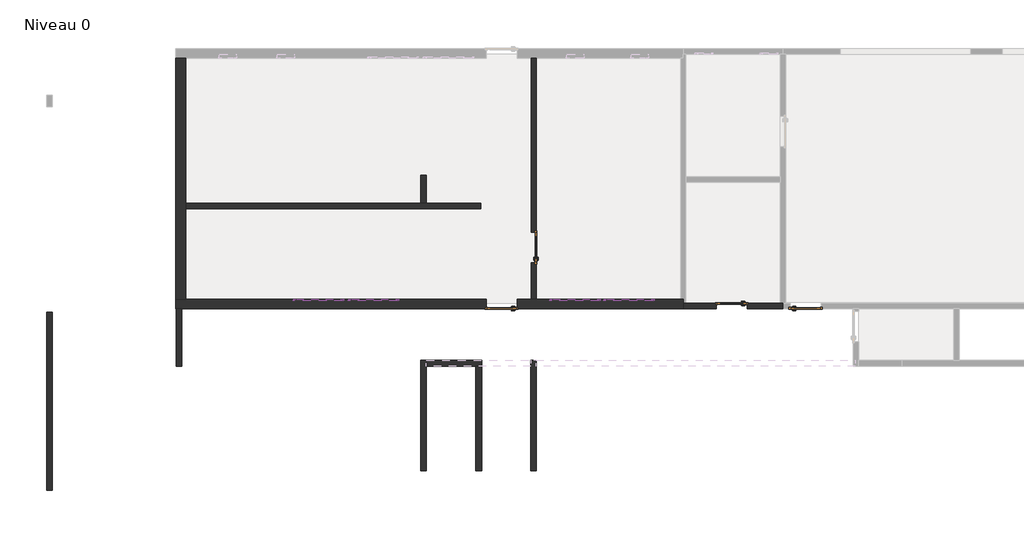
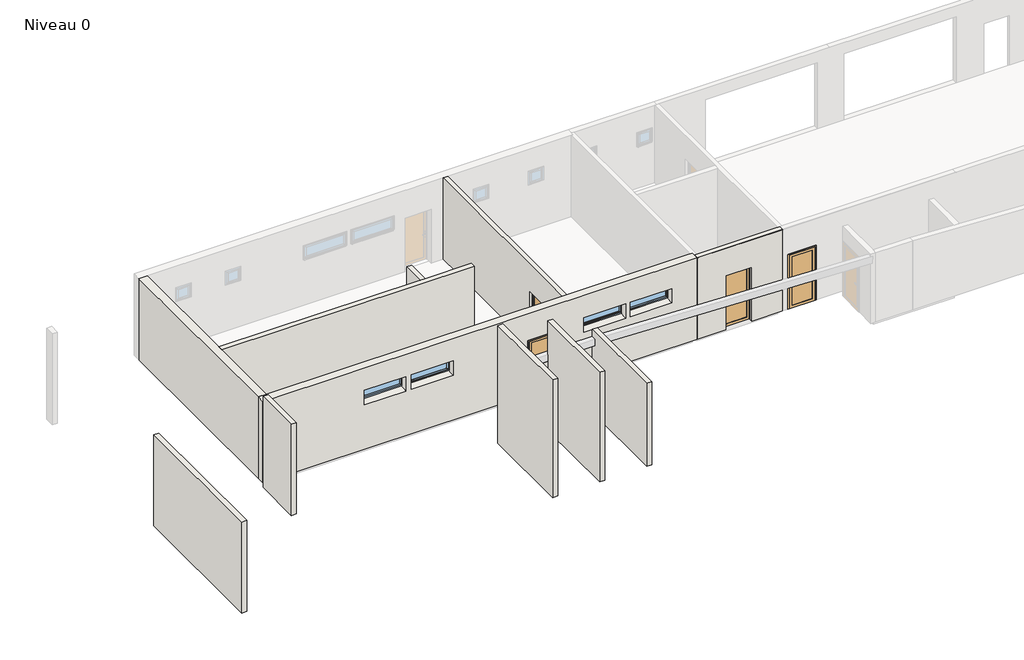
# One storey, part 1 of 3: 12 walls, 4 doors, 4 windows.
"""IFC4 building model written with IfcOpenShell, lengths in millimetres."""

from ifc_helpers import new_model, si_unit, frame, origin, origin_with_axes, place, context, project, spatial, polyline, circle_curve, outline, extrude, faceted_brep, transform, mapped, element, save
from ifc_brep_helpers import plane_surface, revolved_surface, advanced_brep
from components import pvc_panneau_plein_0_93_x_2_04_92b54130, pvc_panneau_plein_0_93_x_2_04_d98bbb1e, pvc_panneau_plein_0_93_x_2_04_515509ed, rect_1_fixe_150x50_26ae5af5

model = new_model("IFC4")

# Units and contexts
model_context = context("Model", 3, world=origin())
ifc_project = project(units=[si_unit("LENGTHUNIT", "METRE", prefix="MILLI")], contexts=[model_context])

# Site, building, storey
site = spatial("IfcSite", under=ifc_project)
building = spatial("IfcBuilding", under=site)
storey = spatial("IfcBuildingStorey", under=building, Name="Niveau 0", Elevation=0.0)

# Doors
placement = place(None, origin())
pvc_panneau_plein_0_93_x_2_04_shape = pvc_panneau_plein_0_93_x_2_04_92b54130(model_context)
element("IfcDoor", 1, ObjectType="PVC Panneau Plein : 0.93 x 2.04", at=placement, inside=storey, context=model_context, shape_type="MappedRepresentation", body=[
    mapped(pvc_panneau_plein_0_93_x_2_04_shape, transform((-1337.7523392, -3130.8814156, 0.0), x_axis=(0.0, 1.0, 0.0), y_axis=(-1.0, 0.0, 0.0), z_axis=(0.0, 0.0, 1.0))),
])
pvc_panneau_plein_0_93_x_2_04_2_shape = pvc_panneau_plein_0_93_x_2_04_d98bbb1e(model_context)
element("IfcDoor", 2, ObjectType="PVC Panneau Plein : 0.93 x 2.04", at=placement, inside=storey, context=model_context, shape_type="MappedRepresentation", body=[
    mapped(pvc_panneau_plein_0_93_x_2_04_2_shape, transform((7060.5386339, -4937.0878454, 0.0), x_axis=(1.0, 0.0, 0.0), y_axis=(0.0, 1.0, 0.0), z_axis=(0.0, 0.0, 1.0))),
])
element("IfcDoor", 3, ObjectType="PVC Panneau Plein : 0.93 x 2.04", at=placement, inside=storey, context=model_context, shape_type="MappedRepresentation", body=[
    mapped(pvc_panneau_plein_0_93_x_2_04_2_shape, transform((4780.5386339, -4944.6749858, 0.0), x_axis=(-1.0, 0.0, 0.0), y_axis=(0.0, -1.0, 0.0), z_axis=(0.0, 0.0, 1.0))),
])
pvc_panneau_plein_0_93_x_2_04_3_shape = pvc_panneau_plein_0_93_x_2_04_515509ed(model_context)
element("IfcDoor", 4, ObjectType="PVC Panneau Plein : 0.93 x 2.04", at=placement, inside=storey, context=model_context, shape_type="MappedRepresentation", body=[
    mapped(pvc_panneau_plein_0_93_x_2_04_3_shape, transform((-2323.000001, -4877.0878454, 0.0), x_axis=(-1.0, 0.0, 0.0), y_axis=(0.0, -1.0, 0.0), z_axis=(0.0, 0.0, 1.0))),
])

# Walls
element("IfcWall", 5, ObjectType="Refend. Voile BA 16", at=placement, inside=storey, context=model_context, shape_type="Brep", body=[
    faceted_brep([(-1253.958769, -4730.8814156, 3100.0), (-1253.958769, -4730.8814156, 0.0), (-1253.958769, -3645.8814156, 0.0), (-1253.958769, -3645.8814156, 2090.0), (-1253.958769, -2615.8814156, 2090.0), (-1253.958769, -2615.8814156, 0.0), (-1253.958769, 2709.1185844, 0.0), (-1253.958769, 2709.1185844, 3100.0), (-1413.958769, -4730.8814156, 0.0), (-1413.958769, -4730.8814156, 3100.0), (-1413.958769, 2709.1185844, 3100.0), (-1413.958769, 2709.1185844, 0.0), (-1413.958769, -2655.8814156, 0.0), (-1413.958769, -2655.8814156, 2050.0), (-1413.958769, -3605.8814156, 2050.0), (-1413.958769, -3605.8814156, 0.0), (-1303.958769, -3605.8814156, 0.0), (-1303.958769, -3645.8814156, 0.0), (-1303.958769, -2615.8814156, 0.0), (-1303.958769, -2655.8814156, 0.0), (-1303.958769, -2655.8814156, 2050.0), (-1303.958769, -3605.8814156, 2050.0), (-1303.958769, -3645.8814156, 2090.0), (-1303.958769, -2615.8814156, 2090.0)], [[[0, 1, 2, 3, 4, 5, 6, 7]], [[8, 9, 10, 11, 12, 13, 14, 15]], [[1, 8, 15, 16, 17, 2]], [[11, 6, 5, 18, 19, 12]], [[1, 0, 9, 8]], [[7, 6, 11, 10]], [[20, 21, 14, 13]], [[21, 16, 15, 14]], [[19, 20, 13, 12]], [[17, 22, 3, 2]], [[21, 20, 19, 18, 23, 22, 17, 16]], [[3, 22, 23, 4]], [[23, 18, 5, 4]], [[0, 7, 10, 9]]]),
])
element("IfcWall", 6, ObjectType="Ext. Voile BA 18", at=placement, inside=storey, context=model_context, shape_type="Brep", body=[
    faceted_brep([(3280.5386339, -4850.8814156, 0.0), (3280.5386339, -4850.8814156, 3100.0), (3360.5386339, -4850.8814156, 3100.0), (6280.5386339, -4850.8814156, 3100.0), (6360.5386339, -4850.8814156, 3100.0), (6360.5386339, -4850.8814156, 0.0), (6280.5386339, -4850.8814156, 0.0), (5295.5386339, -4850.8814156, 0.0), (5295.5386339, -4850.8814156, 2090.0), (4265.5386339, -4850.8814156, 2090.0), (4265.5386339, -4850.8814156, 0.0), (3360.5386339, -4850.8814156, 0.0), (3280.5386339, -5030.8814156, 3100.0), (3280.5386339, -5030.8814156, 0.0), (4305.5386339, -5030.8814156, 0.0), (4305.5386339, -5030.8814156, 2050.0), (5255.5386339, -5030.8814156, 2050.0), (5255.5386339, -5030.8814156, 0.0), (6360.5386339, -5030.8814156, 0.0), (6360.5386339, -5030.8814156, 3100.0), (4265.5386339, -4900.8814156, 0.0), (4305.5386339, -4900.8814156, 0.0), (5255.5386339, -4900.8814156, 0.0), (5295.5386339, -4900.8814156, 0.0), (3280.5386339, -5025.8814156, 3100.0), (6360.5386339, -5025.8814156, 3100.0), (4305.5386339, -4900.8814156, 2050.0), (5255.5386339, -4900.8814156, 2050.0), (5295.5386339, -4900.8814156, 2090.0), (4265.5386339, -4900.8814156, 2090.0)], [[[0, 1, 2, 3, 4, 5, 6, 7, 8, 9, 10, 11]], [[12, 13, 14, 15, 16, 17, 18, 19]], [[13, 0, 11, 10, 20, 21, 14]], [[5, 18, 17, 22, 23, 7, 6]], [[1, 0, 13, 12, 24]], [[5, 4, 25, 19, 18]], [[26, 27, 16, 15]], [[27, 22, 17, 16]], [[21, 26, 15, 14]], [[23, 28, 8, 7]], [[27, 26, 21, 20, 29, 28, 23, 22]], [[8, 28, 29, 9]], [[29, 20, 10, 9]], [[12, 19, 25, 24]], [[4, 3, 2, 1, 24, 25]]]),
])
element("IfcWall", 7, ObjectType="Ext. Voile BA 18", at=placement, inside=storey, context=model_context, shape_type="Brep", body=[
    faceted_brep([(-12083.9657883, -1940.8814156, 0.0), (-2973.000001, -1940.8814156, 0.0), (-2973.000001, -1940.8814156, 3100.0), (-12083.9657883, -1940.8814156, 3100.0), (-12083.9657883, -1760.8814156, 0.0), (-12083.9657883, -1760.8814156, 3100.0), (-4823.958769, -1760.8814156, 3100.0), (-4643.958769, -1760.8814156, 3100.0), (-2973.000001, -1760.8814156, 3100.0), (-2973.000001, -1760.8814156, 0.0), (-4643.958769, -1760.8814156, 0.0), (-4823.958769, -1760.8814156, 0.0)], [[[0, 1, 2, 3]], [[4, 5, 6, 7, 8, 9, 10, 11]], [[1, 0, 4, 11, 10, 9]], [[2, 1, 9, 8]], [[0, 3, 5, 4]], [[3, 2, 8, 7, 6, 5]]]),
])
element("IfcWall", 8, ObjectType="Ext. Voile BA 18", at=placement, inside=storey, context=model_context, shape_type="SweptSolid", body=[
    extrude(outline(polyline([(-4643.958769, -910.8814156), (-4643.958769, -1760.8814156), (-4823.958769, -1760.8814156), (-4823.958769, -910.8814156), (-4643.958769, -910.8814156)])), origin_with_axes(), (0.0, 0.0, 1.0), 3100.0),
])
element("IfcWall", 9, ObjectType="Ext. Voile BA 18", at=placement, inside=storey, context=model_context, shape_type="Brep", body=[
    faceted_brep([(-1428.02184, -6620.8814156, -170.0), (-1428.02184, -10030.8814156, -170.0), (-1428.02184, -10030.8814156, 2990.0), (-1428.02184, -6620.8814156, 2990.0), (-1428.02184, -6620.8814156, 2720.0), (-1428.02184, -6620.8814156, 2470.0), (-1248.02184, -6620.8814156, -170.0), (-1248.02184, -6620.8814156, 2470.0), (-1248.02184, -6620.8814156, 2720.0), (-1248.02184, -6620.8814156, 2990.0), (-1248.02184, -10030.8814156, 2990.0), (-1248.02184, -10030.8814156, -170.0)], [[[0, 1, 2, 3, 4, 5]], [[6, 7, 8, 9, 10, 11]], [[1, 0, 6, 11]], [[2, 1, 11, 10]], [[3, 2, 10, 9]], [[0, 5, 4, 3, 9, 8, 7, 6]]]),
])
element("IfcWall", 10, ObjectType="Ext. Voile BA 18", at=placement, inside=storey, context=model_context, shape_type="Brep", body=[
    faceted_brep([(-4823.958769, -6620.8814156, -170.0), (-4823.958769, -10030.7740326, -170.0), (-4823.958769, -10030.7740326, 4320.0), (-4823.958769, -6620.8814156, 4320.0), (-4643.958769, -6620.8814156, -170.0), (-4643.958769, -6620.8814156, 2469.6602788), (-4643.958769, -6620.8814156, 2470.0), (-4643.958769, -6620.8814156, 2720.0), (-4643.958769, -6620.8814156, 4320.0), (-4643.958769, -10030.7740326, 4320.0), (-4643.958769, -10030.7740326, -170.0), (-4643.958769, -6800.8814156, -170.0)], [[[0, 1, 2, 3]], [[4, 5, 6, 7, 8, 9, 10, 11]], [[1, 0, 4, 11, 10]], [[2, 1, 10, 9]], [[3, 2, 9, 8]], [[0, 3, 8, 7, 6, 5, 4]]]),
])
element("IfcWall", 11, ObjectType="Ext. Voile BA 18", at=placement, inside=storey, context=model_context, shape_type="Brep", body=[
    faceted_brep([(-4643.958769, -6800.8814156, -170.0), (-3123.958769, -6800.8814156, -170.0), (-2943.958769, -6800.8814156, -170.0), (-2943.958769, -6800.8814156, 2469.6602788), (-4643.958769, -6800.8814156, 2469.6602788), (-4643.958769, -6620.8814156, -170.0), (-4643.958769, -6620.8814156, 2469.6602788), (-2943.958769, -6620.8814156, 2469.6602788), (-2943.958769, -6620.8814156, -170.0)], [[[0, 1, 2, 3, 4]], [[5, 6, 7, 8]], [[2, 1, 0, 5, 8]], [[4, 3, 7, 6]], [[0, 4, 6, 5]], [[3, 2, 8, 7]]]),
])
element("IfcWall", 12, ObjectType="Ext. Voile BA 18", at=placement, inside=storey, context=model_context, shape_type="Brep", body=[
    faceted_brep([(-3123.958769, -6800.8814156, -170.0), (-3123.958769, -10030.7740326, -170.0), (-3123.958769, -10030.7740326, 4010.0), (-3123.958769, -6800.8814156, 4010.0), (-2943.958769, -6800.8814156, -170.0), (-2943.958769, -6800.8814156, 2469.6602788), (-2943.958769, -6800.8814156, 4010.0), (-2943.958769, -10030.7740326, 4010.0), (-2943.958769, -10030.7740326, -170.0)], [[[0, 1, 2, 3]], [[4, 5, 6, 7, 8]], [[1, 0, 4, 8]], [[2, 1, 8, 7]], [[3, 2, 7, 6]], [[0, 3, 6, 5, 4]]]),
])
element("IfcWall", 13, ObjectType="Ext. Voile BA 18", at=placement, inside=storey, context=model_context, shape_type="SweptSolid", body=[
    extrude(outline(polyline([(-12373.958769, -6800.8814156), (-12373.958769, -5030.8814156), (-12193.958769, -5030.8814156), (-12193.958769, -6800.8814156), (-12373.958769, -6800.8814156)])), frame((0.0, 0.0, -170.0), z_axis=(0.0, 0.0, 1.0), x_axis=(1.0, 0.0, 0.0)), (0.0, 0.0, 1.0), 3470.0),
])
element("IfcWall", 14, ObjectType="Ext. Voile BA 18", at=placement, inside=storey, context=model_context, shape_type="SweptSolid", body=[
    extrude(outline(polyline([(-16373.958769, -10630.8814156), (-16373.958769, -5130.8814156), (-16193.958769, -5130.8814156), (-16193.958769, -10630.8814156), (-16373.958769, -10630.8814156)])), frame((0.0, 0.0, -170.0), z_axis=(0.0, 0.0, 1.0), x_axis=(1.0, 0.0, 0.0)), (0.0, 0.0, 1.0), 3470.0),
])
element("IfcWall", 15, ObjectType="Ext. Voile BA 18 + Isolant 12", at=placement, inside=storey, context=model_context, shape_type="AdvancedBrep", body=[
    advanced_brep(
    [(3280.5386339, -4730.8814156, 3100.0), (3280.5386339, -4730.8814156, 0.0), (3200.5386339, -4730.8814156, 0.0), (-1253.958769, -4730.8814156, 0.0), (-1413.958769, -4730.8814156, 0.0), (-1848.000001, -4730.8814156, 0.0), (-1848.000001, -4730.8814156, 2050.0), (-2798.000001, -4730.8814156, 2050.0), (-2798.000001, -4730.8814156, 0.0), (-12083.9657883, -4730.8814156, 0.0), (-12383.9657883, -4730.8814156, 0.0), (-12383.9657883, -4730.8814156, 3100.0), (-12083.9657883, -4730.8814156, 3100.0), (-1413.958769, -4730.8814156, 3100.0), (-1253.958769, -4730.8814156, 3100.0), (3200.5386339, -4730.8814156, 3100.0), (833.2899324, -4730.8814156, 2280.0), (833.2899324, -4730.8814156, 1750.0), (853.2899324, -4730.8814156, 1750.0), (863.2899324, -4730.8814156, 1750.0), (863.2899324, -4730.8814156, 1720.5497907), (2363.2899324, -4730.8814156, 1720.5497907), (2363.2899324, -4730.8814156, 1750.0), (2373.2899324, -4730.8814156, 1750.0), (2393.2899324, -4730.8814156, 1750.0), (2393.2899324, -4730.8814156, 2280.0), (-7053.958769, -4730.8814156, 2280.0), (-7053.958769, -4730.8814156, 1750.0), (-7033.958769, -4730.8814156, 1750.0), (-7023.958769, -4730.8814156, 1750.0), (-7023.958769, -4730.8814156, 1720.5497907), (-5523.958769, -4730.8814156, 1720.5497907), (-5523.958769, -4730.8814156, 1750.0), (-5513.958769, -4730.8814156, 1750.0), (-5493.958769, -4730.8814156, 1750.0), (-5493.958769, -4730.8814156, 2280.0), (-8753.958769, -4730.8814156, 2280.0), (-8753.958769, -4730.8814156, 1750.0), (-8733.958769, -4730.8814156, 1750.0), (-8723.958769, -4730.8814156, 1750.0), (-8723.958769, -4730.8814156, 1720.5497907), (-7223.958769, -4730.8814156, 1720.5497907), (-7223.958769, -4730.8814156, 1750.0), (-7213.958769, -4730.8814156, 1750.0), (-7193.958769, -4730.8814156, 1750.0), (-7193.958769, -4730.8814156, 2280.0), (-833.958769, -4730.8814156, 2280.0), (-833.958769, -4730.8814156, 1750.0), (-803.958769, -4730.8814156, 1750.0), (-803.958769, -4730.8814156, 1720.5497907), (696.041231, -4730.8814156, 1720.5497907), (696.041231, -4730.8814156, 1750.0), (726.041231, -4730.8814156, 1750.0), (726.041231, -4730.8814156, 2280.0), (3280.5386339, -5030.8814156, 0.0), (3280.5386339, -5030.8814156, 3100.0), (-12383.9657883, -5030.8814156, 3100.0), (-12383.9657883, -5030.8814156, 0.0), (-2838.000001, -5030.8814156, 0.0), (-2838.000001, -5030.8814156, 2090.0), (-1808.000001, -5030.8814156, 2090.0), (-1808.000001, -5030.8814156, 0.0), (2363.2899324, -5030.8814156, 2250.0), (2363.2899324, -5030.8814156, 1700.0), (863.2899324, -5030.8814156, 1700.0), (863.2899324, -5030.8814156, 2250.0), (-5523.958769, -5030.8814156, 2250.0), (-5523.958769, -5030.8814156, 1700.0), (-7023.958769, -5030.8814156, 1700.0), (-7023.958769, -5030.8814156, 2250.0), (-7223.958769, -5030.8814156, 2250.0), (-7223.958769, -5030.8814156, 1700.0), (-8723.958769, -5030.8814156, 1700.0), (-8723.958769, -5030.8814156, 2250.0), (696.041231, -5030.8814156, 2250.0), (696.041231, -5030.8814156, 1700.0), (-803.958769, -5030.8814156, 1700.0), (-803.958769, -5030.8814156, 2250.0), (-2798.000001, -4980.8814156, 0.0), (-2838.000001, -4980.8814156, 0.0), (3280.5386339, -4850.8814156, 0.0), (-1808.000001, -4980.8814156, 0.0), (-1848.000001, -4980.8814156, 0.0), (3280.5386339, -4850.8814156, 3100.0), (3280.5386339, -5025.8814156, 3100.0), (-12383.9657883, -5025.8814156, 3100.0), (833.2899324, -4780.8814156, 2280.0), (2393.2899324, -4780.8814156, 2280.0), (2393.2899324, -4780.8814156, 1750.0), (2373.2899324, -4780.8814156, 1750.0), (2363.2899324, -4780.8814156, 1750.0), (2363.2899324, -4780.8814156, 2250.0), (863.2899324, -4780.8814156, 2250.0), (863.2899324, -4780.8814156, 1750.0), (853.2899324, -4780.8814156, 1750.0), (833.2899324, -4780.8814156, 1750.0), (2363.2899324, -4745.5027042, 1718.4115298), (863.2899324, -4745.5027042, 1718.4115298), (-7053.958769, -4780.8814156, 2280.0), (-5493.958769, -4780.8814156, 2280.0), (-5493.958769, -4780.8814156, 1750.0), (-5513.958769, -4780.8814156, 1750.0), (-5523.958769, -4780.8814156, 1750.0), (-5523.958769, -4780.8814156, 2250.0), (-7023.958769, -4780.8814156, 2250.0), (-7023.958769, -4780.8814156, 1750.0), (-7033.958769, -4780.8814156, 1750.0), (-7053.958769, -4780.8814156, 1750.0), (-5523.958769, -4745.5027042, 1718.4115298), (-7023.958769, -4745.5027042, 1718.4115298), (-8753.958769, -4780.8814156, 2280.0), (-7193.958769, -4780.8814156, 2280.0), (-7193.958769, -4780.8814156, 1750.0), (-7213.958769, -4780.8814156, 1750.0), (-7223.958769, -4780.8814156, 1750.0), (-7223.958769, -4780.8814156, 2250.0), (-8723.958769, -4780.8814156, 2250.0), (-8723.958769, -4780.8814156, 1750.0), (-8733.958769, -4780.8814156, 1750.0), (-8753.958769, -4780.8814156, 1750.0), (-7223.958769, -4745.5027042, 1718.4115298), (-8723.958769, -4745.5027042, 1718.4115298), (-1848.000001, -4980.8814156, 2050.0), (-2798.000001, -4980.8814156, 2050.0), (-1808.000001, -4980.8814156, 2090.0), (-2838.000001, -4980.8814156, 2090.0), (-833.958769, -4780.8814156, 2280.0), (726.041231, -4780.8814156, 2280.0), (726.041231, -4780.8814156, 1750.0), (706.041231, -4780.8814156, 1750.0), (696.041231, -4780.8814156, 1750.0), (696.041231, -4780.8814156, 2250.0), (-803.958769, -4780.8814156, 2250.0), (-803.958769, -4780.8814156, 1750.0), (-813.958769, -4780.8814156, 1750.0), (-833.958769, -4780.8814156, 1750.0), (696.041231, -4745.5027042, 1718.4115298), (-803.958769, -4745.5027042, 1718.4115298)],
    [
        (0, 1),
        (1, 2),
        (2, 3),
        (3, 4),
        (4, 5),
        (5, 6),
        (6, 7),
        (7, 8),
        (8, 9),
        (9, 10),
        (10, 11),
        (11, 12),
        (12, 13),
        (13, 14),
        (14, 15),
        (15, 0),
        (16, 17),
        (17, 18),
        (18, 19),
        (19, 20),
        (20, 21),
        (21, 22),
        (22, 23),
        (23, 24),
        (24, 25),
        (25, 16),
        (26, 27),
        (27, 28),
        (28, 29),
        (29, 30),
        (30, 31),
        (31, 32),
        (32, 33),
        (33, 34),
        (34, 35),
        (35, 26),
        (36, 37),
        (37, 38),
        (38, 39),
        (39, 40),
        (40, 41),
        (41, 42),
        (42, 43),
        (43, 44),
        (44, 45),
        (45, 36),
        (46, 47),
        (47, 48),
        (48, 49),
        (49, 50),
        (50, 51),
        (51, 52),
        (52, 53),
        (53, 46),
        (54, 55),
        (55, 56),
        (56, 57),
        (57, 58),
        (58, 59),
        (59, 60),
        (60, 61),
        (61, 54),
        (62, 63),
        (63, 64),
        (64, 65),
        (65, 62),
        (66, 67),
        (67, 68),
        (68, 69),
        (69, 66),
        (70, 71),
        (71, 72),
        (72, 73),
        (73, 70),
        (74, 75),
        (75, 76),
        (76, 77),
        (77, 74),
        (57, 10),
        (8, 78),
        (78, 79),
        (79, 58),
        (1, 80),
        (80, 54),
        (61, 81),
        (81, 82),
        (82, 5),
        (0, 83),
        (83, 84),
        (84, 55),
        (56, 85),
        (85, 11),
        (86, 87),
        (87, 88),
        (88, 89),
        (89, 90),
        (90, 91),
        (91, 92),
        (92, 93),
        (93, 94),
        (94, 95),
        (95, 86),
        (95, 17),
        (16, 86),
        (88, 24),
        (22, 90),
        (93, 19),
        (87, 25),
        (21, 96, circle_curve(frame((2363.2899324, -4740.8814156, 1737.8702988), z_axis=(-1.0, 0.0, 0.0), x_axis=(0.0, -1.0, 0.0)), 20.0)),
        (96, 63),
        (62, 91),
        (92, 65),
        (64, 97),
        (97, 20, circle_curve(frame((863.2899324, -4740.8814156, 1737.8702988), z_axis=(1.0, 0.0, 0.0), x_axis=(0.0, -1.0, 0.0)), 20.0)),
        (97, 96),
        (98, 99),
        (99, 100),
        (100, 101),
        (101, 102),
        (102, 103),
        (103, 104),
        (104, 105),
        (105, 106),
        (106, 107),
        (107, 98),
        (107, 27),
        (26, 98),
        (100, 34),
        (32, 102),
        (105, 29),
        (99, 35),
        (31, 108, circle_curve(frame((-5523.958769, -4740.8814156, 1737.8702988), z_axis=(-1.0, 0.0, 0.0), x_axis=(0.0, -1.0, 0.0)), 20.0)),
        (108, 67),
        (66, 103),
        (104, 69),
        (68, 109),
        (109, 30, circle_curve(frame((-7023.958769, -4740.8814156, 1737.8702988), z_axis=(1.0, 0.0, 0.0), x_axis=(0.0, -1.0, 0.0)), 20.0)),
        (109, 108),
        (110, 111),
        (111, 112),
        (112, 113),
        (113, 114),
        (114, 115),
        (115, 116),
        (116, 117),
        (117, 118),
        (118, 119),
        (119, 110),
        (119, 37),
        (36, 110),
        (112, 44),
        (42, 114),
        (117, 39),
        (111, 45),
        (41, 120, circle_curve(frame((-7223.958769, -4740.8814156, 1737.8702988), z_axis=(-1.0, 0.0, 0.0), x_axis=(0.0, -1.0, 0.0)), 20.0)),
        (120, 71),
        (70, 115),
        (116, 73),
        (72, 121),
        (121, 40, circle_curve(frame((-8723.958769, -4740.8814156, 1737.8702988), z_axis=(1.0, 0.0, 0.0), x_axis=(0.0, -1.0, 0.0)), 20.0)),
        (121, 120),
        (122, 123),
        (123, 7),
        (6, 122),
        (82, 122),
        (123, 78),
        (60, 124),
        (124, 81),
        (124, 125),
        (125, 79),
        (59, 125),
        (126, 127),
        (127, 128),
        (128, 129),
        (129, 130),
        (130, 131),
        (131, 132),
        (132, 133),
        (133, 134),
        (134, 135),
        (135, 126),
        (135, 47),
        (46, 126),
        (128, 52),
        (51, 130),
        (133, 48),
        (127, 53),
        (50, 136, circle_curve(frame((696.041231, -4740.8814156, 1737.8702988), z_axis=(-1.0, 0.0, 0.0), x_axis=(0.0, -1.0, 0.0)), 20.0)),
        (136, 75),
        (74, 131),
        (132, 77),
        (76, 137),
        (137, 49, circle_curve(frame((-803.958769, -4740.8814156, 1737.8702988), z_axis=(1.0, 0.0, 0.0), x_axis=(0.0, -1.0, 0.0)), 20.0)),
        (137, 136),
    ],
    [
        plane_surface(frame((3350.5386339, -4730.8814156, 0.0), z_axis=(0.0, 1.0, 0.0), x_axis=(-1.0, 0.0, 0.0))),
        plane_surface(frame((3350.5386339, -5030.8814156, 0.0), z_axis=(0.0, -1.0, 0.0), x_axis=(1.0, 0.0, 0.0))),
        plane_surface(frame((3280.5386339, -4730.8814156, 0.0), z_axis=(0.0, 0.0, -1.0), x_axis=(0.0, -1.0, 0.0))),
        plane_surface(frame((3280.5386339, -4730.8814156, 3100.0), z_axis=(1.0, 0.0, 0.0), x_axis=(0.0, -1.0, 0.0))),
        plane_surface(frame((-12383.9657883, -5030.8814156, 0.0), z_axis=(-1.0, 0.0, 0.0), x_axis=(0.0, -1.0, 0.0))),
        plane_surface(frame((833.2899324, -4780.8814156, 2280.0), z_axis=(0.0, 1.0, 0.0), x_axis=(0.0, 0.0, -1.0))),
        plane_surface(frame((833.2899324, -4780.8814156, 2280.0), z_axis=(1.0, 0.0, 0.0), x_axis=(0.0, 1.0, 0.0))),
        plane_surface(frame((833.2899324, -4780.8814156, 1750.0), z_axis=(0.0, 0.0, 1.0), x_axis=(0.0, 1.0, 0.0))),
        plane_surface(frame((2393.2899324, -4780.8814156, 1750.0), z_axis=(-1.0, 0.0, 0.0), x_axis=(0.0, 1.0, 0.0))),
        plane_surface(frame((2393.2899324, -4780.8814156, 2280.0), z_axis=(0.0, 0.0, -1.0), x_axis=(0.0, 1.0, 0.0))),
        plane_surface(frame((2363.2899324, -4730.8814156, 2250.0), z_axis=(-1.0, 0.0, 0.0), x_axis=(0.0, -1.0, 0.0))),
        plane_surface(frame((863.2899324, -4730.8814156, 1750.0), z_axis=(1.0, 0.0, 0.0), x_axis=(0.0, -1.0, 0.0))),
        plane_surface(frame((863.2899324, -4730.8814156, 2250.0), z_axis=(0.0, 0.0, -1.0), x_axis=(0.0, -1.0, 0.0))),
        revolved_surface(polyline([(863.2899324, -4760.8814156, 1737.8702988), (2363.2899324, -4760.8814156, 1737.8702988)]), (2363.2899324, -4740.8814156, 1737.8702988), (-1.0, 0.0, 0.0)),
        plane_surface(frame((863.2899324, -4745.5027042, 1718.4115298), z_axis=(0.0, -0.06438227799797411, 0.9979253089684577), x_axis=(1.0, 0.0, 0.0))),
        plane_surface(frame((-7053.958769, -4780.8814156, 2280.0), z_axis=(0.0, 1.0, 0.0), x_axis=(0.0, 0.0, -1.0))),
        plane_surface(frame((-7053.958769, -4780.8814156, 2280.0), z_axis=(1.0, 0.0, 0.0), x_axis=(0.0, 1.0, 0.0))),
        plane_surface(frame((-7053.958769, -4780.8814156, 1750.0), z_axis=(0.0, 0.0, 1.0), x_axis=(0.0, 1.0, 0.0))),
        plane_surface(frame((-5493.958769, -4780.8814156, 1750.0), z_axis=(-1.0, 0.0, 0.0), x_axis=(0.0, 1.0, 0.0))),
        plane_surface(frame((-5493.958769, -4780.8814156, 2280.0), z_axis=(0.0, 0.0, -1.0), x_axis=(0.0, 1.0, 0.0))),
        plane_surface(frame((-5523.958769, -4730.8814156, 2250.0), z_axis=(-1.0, 0.0, 0.0), x_axis=(0.0, -1.0, 0.0))),
        plane_surface(frame((-7023.958769, -4730.8814156, 1750.0), z_axis=(1.0, 0.0, 0.0), x_axis=(0.0, -1.0, 0.0))),
        plane_surface(frame((-7023.958769, -4730.8814156, 2250.0), z_axis=(0.0, 0.0, -1.0), x_axis=(0.0, -1.0, 0.0))),
        revolved_surface(polyline([(-7023.958769, -4760.8814156, 1737.8702988), (-5523.958769, -4760.8814156, 1737.8702988)]), (-5523.958769, -4740.8814156, 1737.8702988), (-1.0, 0.0, 0.0)),
        plane_surface(frame((-7023.958769, -4745.5027042, 1718.4115298), z_axis=(0.0, -0.06438227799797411, 0.9979253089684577), x_axis=(1.0, 0.0, 0.0))),
        plane_surface(frame((-8753.958769, -4780.8814156, 2280.0), z_axis=(0.0, 1.0, 0.0), x_axis=(0.0, 0.0, -1.0))),
        plane_surface(frame((-8753.958769, -4780.8814156, 2280.0), z_axis=(1.0, 0.0, 0.0), x_axis=(0.0, 1.0, 0.0))),
        plane_surface(frame((-8753.958769, -4780.8814156, 1750.0), z_axis=(0.0, 0.0, 1.0), x_axis=(0.0, 1.0, 0.0))),
        plane_surface(frame((-7193.958769, -4780.8814156, 1750.0), z_axis=(-1.0, 0.0, 0.0), x_axis=(0.0, 1.0, 0.0))),
        plane_surface(frame((-7193.958769, -4780.8814156, 2280.0), z_axis=(0.0, 0.0, -1.0), x_axis=(0.0, 1.0, 0.0))),
        plane_surface(frame((-7223.958769, -4730.8814156, 2250.0), z_axis=(-1.0, 0.0, 0.0), x_axis=(0.0, -1.0, 0.0))),
        plane_surface(frame((-8723.958769, -4730.8814156, 1750.0), z_axis=(1.0, 0.0, 0.0), x_axis=(0.0, -1.0, 0.0))),
        plane_surface(frame((-8723.958769, -4730.8814156, 2250.0), z_axis=(0.0, 0.0, -1.0), x_axis=(0.0, -1.0, 0.0))),
        revolved_surface(polyline([(-8723.958769, -4760.8814156, 1737.8702988), (-7223.958769, -4760.8814156, 1737.8702988)]), (-7223.958769, -4740.8814156, 1737.8702988), (-1.0, 0.0, 0.0)),
        plane_surface(frame((-8723.958769, -4745.5027042, 1718.4115298), z_axis=(0.0, -0.06438227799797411, 0.9979253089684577), x_axis=(1.0, 0.0, 0.0))),
        plane_surface(frame((-1848.000001, -4430.8814156, 2050.0), z_axis=(0.0, 0.0, -1.0), x_axis=(1.0, 0.0, 0.0))),
        plane_surface(frame((-1848.000001, -4430.8814156, 2050.0), z_axis=(-1.0, 0.0, 0.0), x_axis=(0.0, 0.0, -1.0))),
        plane_surface(frame((-2798.000001, -5330.8814156, 2050.0), z_axis=(1.0, 0.0, 0.0), x_axis=(0.0, 0.0, -1.0))),
        plane_surface(frame((-1808.000001, -5030.8814156, 0.0), z_axis=(-1.0, 0.0, 0.0), x_axis=(0.0, 0.0, 1.0))),
        plane_surface(frame((-1808.000001, -4980.8814156, 0.0), z_axis=(0.0, -1.0, 0.0), x_axis=(0.0, 0.0, 1.0))),
        plane_surface(frame((-1808.000001, -5030.8814156, 2090.0), z_axis=(0.0, 0.0, -1.0), x_axis=(-1.0, 0.0, 0.0))),
        plane_surface(frame((-2838.000001, -5030.8814156, 2090.0), z_axis=(1.0, 0.0, 0.0), x_axis=(0.0, 0.0, -1.0))),
        plane_surface(frame((-833.958769, -4780.8814156, 2280.0), z_axis=(0.0, 1.0, 0.0), x_axis=(0.0, 0.0, -1.0))),
        plane_surface(frame((-833.958769, -4780.8814156, 2280.0), z_axis=(1.0, 0.0, 0.0), x_axis=(0.0, 1.0, 0.0))),
        plane_surface(frame((-833.958769, -4780.8814156, 1750.0), z_axis=(0.0, 0.0, 1.0), x_axis=(0.0, 1.0, 0.0))),
        plane_surface(frame((726.041231, -4780.8814156, 1750.0), z_axis=(-1.0, 0.0, 0.0), x_axis=(0.0, 1.0, 0.0))),
        plane_surface(frame((726.041231, -4780.8814156, 2280.0), z_axis=(0.0, 0.0, -1.0), x_axis=(0.0, 1.0, 0.0))),
        plane_surface(frame((696.041231, -4730.8814156, 2250.0), z_axis=(-1.0, 0.0, 0.0), x_axis=(0.0, -1.0, 0.0))),
        plane_surface(frame((-803.958769, -4730.8814156, 1750.0), z_axis=(1.0, 0.0, 0.0), x_axis=(0.0, -1.0, 0.0))),
        plane_surface(frame((-803.958769, -4730.8814156, 2250.0), z_axis=(0.0, 0.0, -1.0), x_axis=(0.0, -1.0, 0.0))),
        revolved_surface(polyline([(-803.958769, -4760.8814156, 1737.8702988), (696.041231, -4760.8814156, 1737.8702988)]), (696.041231, -4740.8814156, 1737.8702988), (-1.0, 0.0, 0.0)),
        plane_surface(frame((-803.958769, -4745.5027042, 1718.4115298), z_axis=(0.0, -0.06438227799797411, 0.9979253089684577), x_axis=(1.0, 0.0, 0.0))),
        plane_surface(frame((3280.5386339, 3009.1185844, 3100.0), z_axis=(0.0, 0.0, 1.0), x_axis=(1.0, 0.0, 0.0))),
    ],
    [
        (0, [[1, 2, 3, 4, 5, 6, 7, 8, 9, 10, 11, 12, 13, 14, 15, 16], [17, 18, 19, 20, 21, 22, 23, 24, 25, 26], [27, 28, 29, 30, 31, 32, 33, 34, 35, 36], [37, 38, 39, 40, 41, 42, 43, 44, 45, 46], [47, 48, 49, 50, 51, 52, 53, 54]]),
        (1, [[55, 56, 57, 58, 59, 60, 61, 62], [63, 64, 65, 66], [67, 68, 69, 70], [71, 72, 73, 74], [75, 76, 77, 78]]),
        (2, [[79, -10, -9, 80, 81, 82, -58]]),
        (2, [[83, 84, -62, 85, 86, 87, -5, -4, -3, -2]]),
        (3, [[-1, 88, 89, 90, -55, -84, -83]]),
        (4, [[-11, -79, -57, 91, 92]]),
        (5, [[93, 94, 95, 96, 97, 98, 99, 100, 101, 102]]),
        (6, [[-102, 103, -17, 104]]),
        (7, [[-95, 105, -24, -23, 106, -96]]),
        (7, [[-100, 107, -19, -18, -103, -101]]),
        (8, [[-94, 108, -25, -105]]),
        (9, [[-93, -104, -26, -108]]),
        (10, [[-97, -106, -22, 109, 110, -63, 111]]),
        (11, [[-99, 112, -65, 113, 114, -20, -107]]),
        (12, [[-98, -111, -66, -112]]),
        (13, [[-109, -21, -114, 115]]),
        (14, [[-110, -115, -113, -64]]),
        (15, [[116, 117, 118, 119, 120, 121, 122, 123, 124, 125]]),
        (16, [[-125, 126, -27, 127]]),
        (17, [[-118, 128, -34, -33, 129, -119]]),
        (17, [[-123, 130, -29, -28, -126, -124]]),
        (18, [[-117, 131, -35, -128]]),
        (19, [[-116, -127, -36, -131]]),
        (20, [[-120, -129, -32, 132, 133, -67, 134]]),
        (21, [[-122, 135, -69, 136, 137, -30, -130]]),
        (22, [[-121, -134, -70, -135]]),
        (23, [[-132, -31, -137, 138]]),
        (24, [[-133, -138, -136, -68]]),
        (25, [[139, 140, 141, 142, 143, 144, 145, 146, 147, 148]]),
        (26, [[-148, 149, -37, 150]]),
        (27, [[-141, 151, -44, -43, 152, -142]]),
        (27, [[-146, 153, -39, -38, -149, -147]]),
        (28, [[-140, 154, -45, -151]]),
        (29, [[-139, -150, -46, -154]]),
        (30, [[-143, -152, -42, 155, 156, -71, 157]]),
        (31, [[-145, 158, -73, 159, 160, -40, -153]]),
        (32, [[-144, -157, -74, -158]]),
        (33, [[-155, -41, -160, 161]]),
        (34, [[-156, -161, -159, -72]]),
        (35, [[162, 163, -7, 164]]),
        (36, [[165, -164, -6, -87]]),
        (37, [[166, -80, -8, -163]]),
        (38, [[167, 168, -85, -61]]),
        (39, [[-162, -165, -86, -168, 169, 170, -81, -166]]),
        (40, [[-167, -60, 171, -169]]),
        (41, [[-170, -171, -59, -82]]),
        (42, [[172, 173, 174, 175, 176, 177, 178, 179, 180, 181]]),
        (43, [[-181, 182, -47, 183]]),
        (44, [[-174, 184, -52, 185, -175]]),
        (44, [[-179, 186, -48, -182, -180]]),
        (45, [[-173, 187, -53, -184]]),
        (46, [[-172, -183, -54, -187]]),
        (47, [[-176, -185, -51, 188, 189, -75, 190]]),
        (48, [[-178, 191, -77, 192, 193, -49, -186]]),
        (49, [[-177, -190, -78, -191]]),
        (50, [[194, -188, -50, -193]]),
        (51, [[-194, -192, -76, -189]]),
        (52, [[-89, -88, -16, -15, -14, -13, -12, -92, -91, -56, -90]]),
    ],
),
])
element("IfcWall", 16, ObjectType="Ext. Voile BA 18 + Isolant 12", at=placement, inside=storey, context=model_context, shape_type="Brep", body=[
    faceted_brep([(-12083.9657883, -4730.8814156, 0.0), (-12083.9657883, -1940.8814156, 0.0), (-12083.9657883, -1760.8814156, 0.0), (-12083.9657883, 2709.1185844, 0.0), (-12083.9657883, 2709.1185844, 3100.0), (-12083.9657883, -1760.8814156, 3100.0), (-12083.9657883, -1940.8814156, 3100.0), (-12083.9657883, -4730.8814156, 3100.0), (-12383.9657883, -4730.8814156, 0.0), (-12383.9657883, -4730.8814156, 3100.0), (-12383.9657883, 2709.1185844, 3100.0), (-12383.9657883, 2709.1185844, 0.0)], [[[0, 1, 2, 3, 4, 5, 6, 7]], [[8, 9, 10, 11]], [[3, 2, 1, 0, 8, 11]], [[0, 7, 9, 8]], [[4, 3, 11, 10]], [[7, 6, 5, 4, 10, 9]]]),
])

# Windows
rect_1_fixe_150x50_shape = rect_1_fixe_150x50_26ae5af5(model_context)
element("IfcWindow", 17, ObjectType="Rect 1 fixe : 150x50", at=placement, inside=storey, context=model_context, shape_type="MappedRepresentation", body=[
    mapped(rect_1_fixe_150x50_shape, transform((-53.958769, -4880.8814156, 0.0), x_axis=(-1.0, 0.0, 0.0), y_axis=(0.0, -1.0, 0.0), z_axis=(0.0, 0.0, 1.0))),
])
element("IfcWindow", 18, ObjectType="Rect 1 fixe : 150x50", at=placement, inside=storey, context=model_context, shape_type="MappedRepresentation", body=[
    mapped(rect_1_fixe_150x50_shape, transform((1613.2899324, -4880.8814156, 0.0), x_axis=(-1.0, 0.0, 0.0), y_axis=(0.0, -1.0, 0.0), z_axis=(0.0, 0.0, 1.0))),
])
element("IfcWindow", 19, ObjectType="Rect 1 fixe : 150x50", at=placement, inside=storey, context=model_context, shape_type="MappedRepresentation", body=[
    mapped(rect_1_fixe_150x50_shape, transform((-6273.958769, -4880.8814156, 0.0), x_axis=(-1.0, 0.0, 0.0), y_axis=(0.0, -1.0, 0.0), z_axis=(0.0, 0.0, 1.0))),
])
element("IfcWindow", 20, ObjectType="Rect 1 fixe : 150x50", at=placement, inside=storey, context=model_context, shape_type="MappedRepresentation", body=[
    mapped(rect_1_fixe_150x50_shape, transform((-7973.958769, -4880.8814156, 0.0), x_axis=(-1.0, 0.0, 0.0), y_axis=(0.0, -1.0, 0.0), z_axis=(0.0, 0.0, 1.0))),
])

save(model, "model.ifc")
